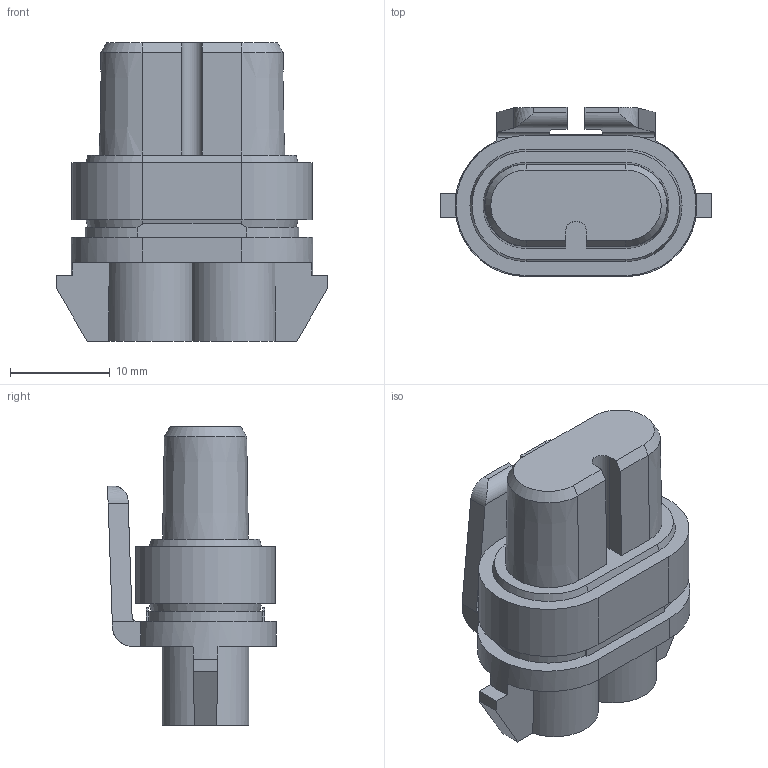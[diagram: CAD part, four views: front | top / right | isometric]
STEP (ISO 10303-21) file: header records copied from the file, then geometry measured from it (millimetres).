
FILE_DESCRIPTION(/* description */ (''),/* implementation_level */ '2;1');
FILE_NAME(/* name */ '12059181-ENV11_09-CONN.stp',/* time_stamp */ '2021-09-06T11:33:21+05:00',/* author */ (''),/* organization */ (''),/* preprocessor_version */ 'ST-DEVELOPER v16',/* originating_system */ 'SIEMENS PLM Software NX 11.0',/* authorisation */ '');
FILE_SCHEMA (('AP203_CONFIGURATION_CONTROLLED_3D_DESIGN_OF_MECHANICAL_PARTS_AND_ASSEMBLIES_MIM_LF { 1 0 10303 403 2 1 2}'));
Length unit declared in the file: millimetre
Products named in the file (1): hjcv19D8AACDzxb6
Bounding box: 27.2 x 16.9 x 29.9 mm (x, y, z)
Volume: 5869.7 mm3; surface area: 2940.9 mm2
Topology: 1 solids, 1 shells, 92 faces, 241 edges, 156 vertices
Faces by surface type: plane 65, cylinder 17, cone 8, extrusion 2
Entity records: 2979 total; most frequent: CARTESIAN_POINT 562, ORIENTED_EDGE 482, DIRECTION 481, EDGE_CURVE 241, VECTOR 179, LINE 177, VERTEX_POINT 156, AXIS2_PLACEMENT_3D 151
